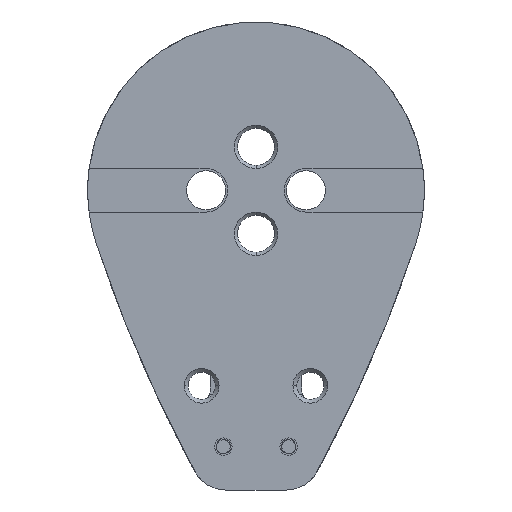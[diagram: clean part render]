
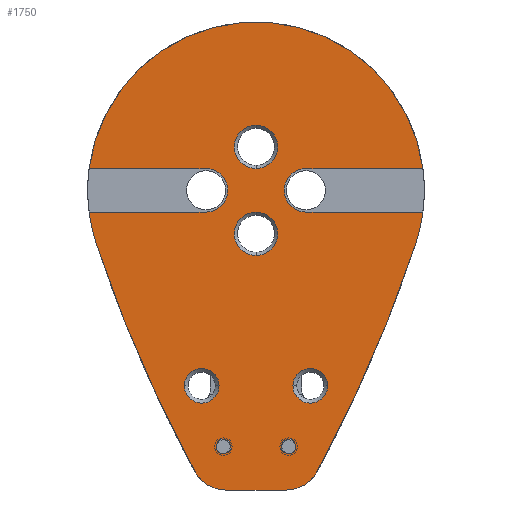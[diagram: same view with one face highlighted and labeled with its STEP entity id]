
A CAD part, front view. The second image highlights one B-rep face of the part: STEP entity #1750.
In plain terms, the highlighted planar face has unit normal (0, -1, 0) as drawn and (0, 0, -1) by its records, which use the part's own axes.
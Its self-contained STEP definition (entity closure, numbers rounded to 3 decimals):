
#2=CARTESIAN_POINT('',(0.,20.,0.));
#3=DIRECTION('',(0.,0.,1.));
#4=DIRECTION('',(0.,1.,0.));
#5=AXIS2_PLACEMENT_3D('',#2,#3,#4);
#7=CARTESIAN_POINT('',(0.,20.,0.));
#8=DIRECTION('',(0.,0.,1.));
#9=DIRECTION('',(0.,-1.,0.));
#10=AXIS2_PLACEMENT_3D('',#7,#8,#9);
#12=CARTESIAN_POINT('',(0.,-20.,0.));
#13=DIRECTION('',(0.,0.,-1.));
#14=DIRECTION('',(0.,-1.,0.));
#15=AXIS2_PLACEMENT_3D('',#12,#13,#14);
#17=CARTESIAN_POINT('',(0.,-20.,0.));
#18=DIRECTION('',(0.,0.,-1.));
#19=DIRECTION('',(0.,1.,0.));
#20=AXIS2_PLACEMENT_3D('',#17,#18,#19);
#22=CARTESIAN_POINT('',(-23.,0.,0.));
#23=DIRECTION('',(0.,0.,-1.));
#24=DIRECTION('',(0.,1.,0.));
#25=AXIS2_PLACEMENT_3D('',#22,#23,#24);
#27=DIRECTION('',(-1.,0.,0.));
#28=VECTOR('',#27,53.852);
#29=CARTESIAN_POINT('',(-23.,-10.,0.));
#30=LINE('',#29,#28);
#31=CARTESIAN_POINT('',(0.,0.,0.));
#32=DIRECTION('',(0.,0.,1.));
#33=DIRECTION('',(-0.992,-0.129,0.));
#34=AXIS2_PLACEMENT_3D('',#31,#32,#33);
#36=DIRECTION('',(-1.,0.,0.));
#37=VECTOR('',#36,53.852);
#38=CARTESIAN_POINT('',(76.852,-10.,0.));
#39=LINE('',#38,#37);
#40=CARTESIAN_POINT('',(23.,0.,0.));
#41=DIRECTION('',(0.,0.,-1.));
#42=DIRECTION('',(0.,-1.,0.));
#43=AXIS2_PLACEMENT_3D('',#40,#41,#42);
#45=DIRECTION('',(1.,0.,0.));
#46=VECTOR('',#45,53.852);
#47=CARTESIAN_POINT('',(23.,10.,0.));
#48=LINE('',#47,#46);
#49=CARTESIAN_POINT('',(0.,0.,0.));
#50=DIRECTION('',(0.,0.,1.));
#51=DIRECTION('',(0.992,0.129,0.));
#52=AXIS2_PLACEMENT_3D('',#49,#50,#51);
#54=CARTESIAN_POINT('',(-543.491,-179.926,0.));
#55=DIRECTION('',(0.,0.,1.));
#56=DIRECTION('',(0.949,0.314,0.));
#57=AXIS2_PLACEMENT_3D('',#54,#55,#56);
#59=CARTESIAN_POINT('',(14.,122.,0.));
#60=DIRECTION('',(0.,0.,1.));
#61=DIRECTION('',(0.879,0.476,0.));
#62=AXIS2_PLACEMENT_3D('',#59,#60,#61);
#64=DIRECTION('',(-1.,0.,0.));
#65=VECTOR('',#64,28.);
#66=CARTESIAN_POINT('',(14.,138.,0.));
#67=LINE('',#66,#65);
#68=CARTESIAN_POINT('',(-14.,122.,0.));
#69=DIRECTION('',(0.,0.,1.));
#70=DIRECTION('',(0.,1.,0.));
#71=AXIS2_PLACEMENT_3D('',#68,#69,#70);
#73=CARTESIAN_POINT('',(543.491,-179.926,0.));
#74=DIRECTION('',(0.,0.,1.));
#75=DIRECTION('',(-0.879,0.476,0.));
#76=AXIS2_PLACEMENT_3D('',#73,#74,#75);
#78=CARTESIAN_POINT('',(0.,0.,0.));
#79=DIRECTION('',(0.,0.,1.));
#80=DIRECTION('',(-0.949,0.314,0.));
#81=AXIS2_PLACEMENT_3D('',#78,#79,#80);
#83=DIRECTION('',(1.,0.,0.));
#84=VECTOR('',#83,53.852);
#85=CARTESIAN_POINT('',(-76.852,10.,0.));
#86=LINE('',#85,#84);
#87=CARTESIAN_POINT('',(25.,90.,0.));
#88=DIRECTION('',(0.,0.,1.));
#89=DIRECTION('',(1.,0.,0.));
#90=AXIS2_PLACEMENT_3D('',#87,#88,#89);
#92=CARTESIAN_POINT('',(25.,90.,0.));
#93=DIRECTION('',(0.,0.,1.));
#94=DIRECTION('',(-1.,0.,0.));
#95=AXIS2_PLACEMENT_3D('',#92,#93,#94);
#97=CARTESIAN_POINT('',(-25.,90.,0.));
#98=DIRECTION('',(0.,0.,-1.));
#99=DIRECTION('',(-1.,0.,0.));
#100=AXIS2_PLACEMENT_3D('',#97,#98,#99);
#102=CARTESIAN_POINT('',(-25.,90.,0.));
#103=DIRECTION('',(0.,0.,-1.));
#104=DIRECTION('',(1.,0.,0.));
#105=AXIS2_PLACEMENT_3D('',#102,#103,#104);
#107=CARTESIAN_POINT('',(-15.,118.,0.));
#108=DIRECTION('',(0.,0.,1.));
#109=DIRECTION('',(0.,1.,0.));
#110=AXIS2_PLACEMENT_3D('',#107,#108,#109);
#112=CARTESIAN_POINT('',(-15.,118.,0.));
#113=DIRECTION('',(0.,0.,1.));
#114=DIRECTION('',(0.,-1.,0.));
#115=AXIS2_PLACEMENT_3D('',#112,#113,#114);
#117=CARTESIAN_POINT('',(15.,118.,0.));
#118=DIRECTION('',(0.,0.,1.));
#119=DIRECTION('',(0.,1.,0.));
#120=AXIS2_PLACEMENT_3D('',#117,#118,#119);
#122=CARTESIAN_POINT('',(15.,118.,0.));
#123=DIRECTION('',(0.,0.,1.));
#124=DIRECTION('',(0.,-1.,0.));
#125=AXIS2_PLACEMENT_3D('',#122,#123,#124);
#1362=CARTESIAN_POINT('',(73.573,24.357,0.));
#1363=CARTESIAN_POINT('',(28.069,129.62,0.));
#1364=VERTEX_POINT('',#1362);
#1365=VERTEX_POINT('',#1363);
#1366=CARTESIAN_POINT('',(14.,138.,0.));
#1367=CARTESIAN_POINT('',(-14.,138.,0.));
#1368=VERTEX_POINT('',#1366);
#1369=VERTEX_POINT('',#1367);
#1370=CARTESIAN_POINT('',(-28.069,129.62,0.));
#1371=CARTESIAN_POINT('',(-73.573,24.357,0.));
#1372=VERTEX_POINT('',#1370);
#1373=VERTEX_POINT('',#1371);
#1456=CARTESIAN_POINT('',(0.,30.,0.));
#1457=CARTESIAN_POINT('',(0.,10.,0.));
#1458=VERTEX_POINT('',#1456);
#1459=VERTEX_POINT('',#1457);
#1472=CARTESIAN_POINT('',(0.,-30.,0.));
#1473=CARTESIAN_POINT('',(0.,-10.,0.));
#1474=VERTEX_POINT('',#1472);
#1475=VERTEX_POINT('',#1473);
#1498=CARTESIAN_POINT('',(-23.,10.,0.));
#1499=CARTESIAN_POINT('',(-23.,-10.,0.));
#1500=VERTEX_POINT('',#1498);
#1501=VERTEX_POINT('',#1499);
#1502=CARTESIAN_POINT('',(-76.852,-10.,0.));
#1503=VERTEX_POINT('',#1502);
#1504=CARTESIAN_POINT('',(-76.852,10.,0.));
#1505=VERTEX_POINT('',#1504);
#1506=CARTESIAN_POINT('',(23.,10.,0.));
#1507=CARTESIAN_POINT('',(76.852,10.,0.));
#1508=VERTEX_POINT('',#1506);
#1509=VERTEX_POINT('',#1507);
#1510=CARTESIAN_POINT('',(76.852,-10.,0.));
#1511=CARTESIAN_POINT('',(23.,-10.,0.));
#1512=VERTEX_POINT('',#1510);
#1513=VERTEX_POINT('',#1511);
#1609=CARTESIAN_POINT('',(33.,90.,0.));
#1610=CARTESIAN_POINT('',(17.,90.,0.));
#1611=VERTEX_POINT('',#1609);
#1612=VERTEX_POINT('',#1610);
#1628=CARTESIAN_POINT('',(-33.,90.,0.));
#1629=CARTESIAN_POINT('',(-17.,90.,0.));
#1630=VERTEX_POINT('',#1628);
#1631=VERTEX_POINT('',#1629);
#1641=CARTESIAN_POINT('',(-15.,121.4,0.));
#1642=CARTESIAN_POINT('',(-15.,114.6,0.));
#1643=VERTEX_POINT('',#1641);
#1644=VERTEX_POINT('',#1642);
#1645=CARTESIAN_POINT('',(15.,121.4,0.));
#1646=CARTESIAN_POINT('',(15.,114.6,0.));
#1647=VERTEX_POINT('',#1645);
#1648=VERTEX_POINT('',#1646);
#1679=CARTESIAN_POINT('',(0.,0.,0.));
#1680=DIRECTION('',(0.,0.,1.));
#1681=DIRECTION('',(1.,0.,0.));
#1682=AXIS2_PLACEMENT_3D('',#1679,#1680,#1681);
#1683=PLANE('',#1682);
#1685=ORIENTED_EDGE('',*,*,#1684,.T.);
#1687=ORIENTED_EDGE('',*,*,#1686,.T.);
#1689=ORIENTED_EDGE('',*,*,#1688,.T.);
#1691=ORIENTED_EDGE('',*,*,#1690,.T.);
#1693=ORIENTED_EDGE('',*,*,#1692,.T.);
#1695=ORIENTED_EDGE('',*,*,#1694,.T.);
#1697=ORIENTED_EDGE('',*,*,#1696,.T.);
#1699=ORIENTED_EDGE('',*,*,#1698,.T.);
#1701=ORIENTED_EDGE('',*,*,#1700,.T.);
#1703=ORIENTED_EDGE('',*,*,#1702,.T.);
#1705=ORIENTED_EDGE('',*,*,#1704,.T.);
#1707=ORIENTED_EDGE('',*,*,#1706,.T.);
#1709=ORIENTED_EDGE('',*,*,#1708,.T.);
#1711=ORIENTED_EDGE('',*,*,#1710,.T.);
#1712=EDGE_LOOP('',(#1685,#1687,#1689,#1691,#1693,#1695,#1697,#1699,#1701,#1703,
#1705,#1707,#1709,#1711));
#1713=FACE_OUTER_BOUND('',#1712,.F.);
#1715=ORIENTED_EDGE('',*,*,#1714,.F.);
#1717=ORIENTED_EDGE('',*,*,#1716,.F.);
#1718=EDGE_LOOP('',(#1715,#1717));
#1719=FACE_BOUND('',#1718,.F.);
#1721=ORIENTED_EDGE('',*,*,#1720,.T.);
#1723=ORIENTED_EDGE('',*,*,#1722,.T.);
#1724=EDGE_LOOP('',(#1721,#1723));
#1725=FACE_BOUND('',#1724,.F.);
#1727=ORIENTED_EDGE('',*,*,#1726,.F.);
#1729=ORIENTED_EDGE('',*,*,#1728,.F.);
#1730=EDGE_LOOP('',(#1727,#1729));
#1731=FACE_BOUND('',#1730,.F.);
#1733=ORIENTED_EDGE('',*,*,#1732,.T.);
#1735=ORIENTED_EDGE('',*,*,#1734,.T.);
#1736=EDGE_LOOP('',(#1733,#1735));
#1737=FACE_BOUND('',#1736,.F.);
#1739=ORIENTED_EDGE('',*,*,#1738,.F.);
#1741=ORIENTED_EDGE('',*,*,#1740,.F.);
#1742=EDGE_LOOP('',(#1739,#1741));
#1743=FACE_BOUND('',#1742,.F.);
#1745=ORIENTED_EDGE('',*,*,#1744,.F.);
#1747=ORIENTED_EDGE('',*,*,#1746,.F.);
#1748=EDGE_LOOP('',(#1745,#1747));
#1749=FACE_BOUND('',#1748,.F.);
#1750=ADVANCED_FACE('',(#1713,#1719,#1725,#1731,#1737,#1743,#1749),#1683,.F.);
#6=CIRCLE('',#5,10.);
#11=CIRCLE('',#10,10.);
#16=CIRCLE('',#15,10.);
#21=CIRCLE('',#20,10.);
#26=CIRCLE('',#25,10.);
#35=CIRCLE('',#34,77.5);
#44=CIRCLE('',#43,10.);
#53=CIRCLE('',#52,77.5);
#58=CIRCLE('',#57,650.);
#63=CIRCLE('',#62,16.);
#72=CIRCLE('',#71,16.);
#77=CIRCLE('',#76,650.);
#82=CIRCLE('',#81,77.5);
#91=CIRCLE('',#90,8.);
#96=CIRCLE('',#95,8.);
#101=CIRCLE('',#100,8.);
#106=CIRCLE('',#105,8.);
#111=CIRCLE('',#110,3.4);
#116=CIRCLE('',#115,3.4);
#121=CIRCLE('',#120,3.4);
#126=CIRCLE('',#125,3.4);
#1684=EDGE_CURVE('',#1500,#1501,#26,.T.);
#1686=EDGE_CURVE('',#1501,#1503,#30,.T.);
#1688=EDGE_CURVE('',#1503,#1512,#35,.T.);
#1690=EDGE_CURVE('',#1512,#1513,#39,.T.);
#1692=EDGE_CURVE('',#1513,#1508,#44,.T.);
#1694=EDGE_CURVE('',#1508,#1509,#48,.T.);
#1696=EDGE_CURVE('',#1509,#1364,#53,.T.);
#1698=EDGE_CURVE('',#1364,#1365,#58,.T.);
#1700=EDGE_CURVE('',#1365,#1368,#63,.T.);
#1702=EDGE_CURVE('',#1368,#1369,#67,.T.);
#1704=EDGE_CURVE('',#1369,#1372,#72,.T.);
#1706=EDGE_CURVE('',#1372,#1373,#77,.T.);
#1708=EDGE_CURVE('',#1373,#1505,#82,.T.);
#1710=EDGE_CURVE('',#1505,#1500,#86,.T.);
#1714=EDGE_CURVE('',#1458,#1459,#6,.T.);
#1716=EDGE_CURVE('',#1459,#1458,#11,.T.);
#1720=EDGE_CURVE('',#1474,#1475,#16,.T.);
#1722=EDGE_CURVE('',#1475,#1474,#21,.T.);
#1726=EDGE_CURVE('',#1611,#1612,#91,.T.);
#1728=EDGE_CURVE('',#1612,#1611,#96,.T.);
#1732=EDGE_CURVE('',#1630,#1631,#101,.T.);
#1734=EDGE_CURVE('',#1631,#1630,#106,.T.);
#1738=EDGE_CURVE('',#1643,#1644,#111,.T.);
#1740=EDGE_CURVE('',#1644,#1643,#116,.T.);
#1744=EDGE_CURVE('',#1647,#1648,#121,.T.);
#1746=EDGE_CURVE('',#1648,#1647,#126,.T.);
